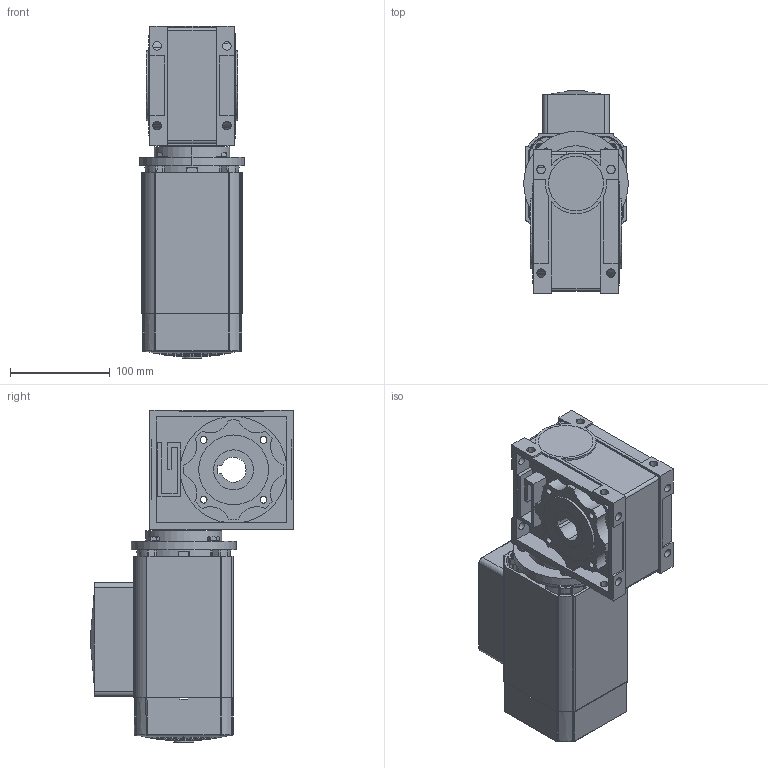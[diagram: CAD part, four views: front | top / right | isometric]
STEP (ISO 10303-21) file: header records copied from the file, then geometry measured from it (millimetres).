
FILE_DESCRIPTION (( 'STEP AP203' ), '1' );
FILE_NAME ('AC9060FC-RA5000T.STEP', '2008-06-30T20:51:28', ( 'eng-rjs' ), ( 'groschopp' ), 'SwSTEP 2.0', 'SolidWorks 2008', '' );
FILE_SCHEMA (( 'CONFIG_CONTROL_DESIGN' ));
Length unit declared in the file: inch
Products named in the file (1): AC9060FC-RA5000T
Bounding box: 105 x 203.46 x 333.07 mm (x, y, z)
Surface area: 349843.9 mm2 (no closed solid volume)
Topology: 0 solids, 42 shells, 1095 faces, 3715 edges, 2595 vertices
Faces by surface type: plane 648, cylinder 292, cone 66, bspline 42, torus 37, sphere 10
Entity records: 42785 total; most frequent: CARTESIAN_POINT 10187, DIRECTION 7353, ORIENTED_EDGE 6014, EDGE_CURVE 3707, AXIS2_PLACEMENT_3D 2861, VERTEX_POINT 2595, CIRCLE 1807, VECTOR 1631
